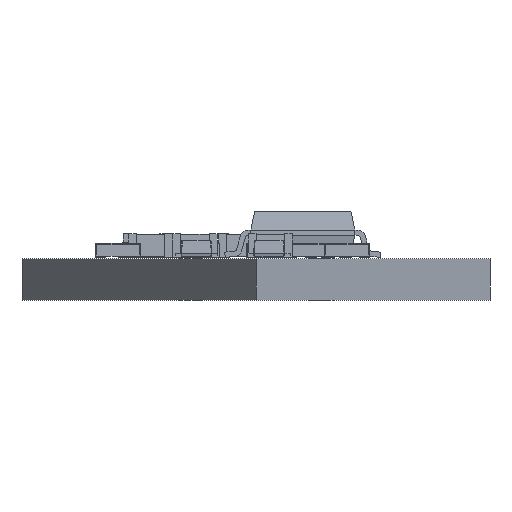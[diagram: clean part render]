
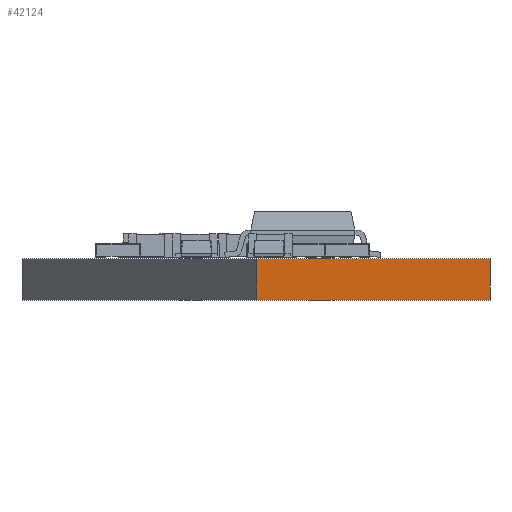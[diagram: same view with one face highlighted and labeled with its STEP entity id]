
A CAD part, front view. The second image highlights one B-rep face of the part: STEP entity #42124.
In plain terms, the highlighted planar face has unit normal (0.822, -0.569, 0).
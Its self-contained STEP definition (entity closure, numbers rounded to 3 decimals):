
#42019 = PLANE('',#42020);
#42020 = AXIS2_PLACEMENT_3D('',#42021,#42022,#42023);
#42021 = CARTESIAN_POINT('',(18.,-70.,0.));
#42022 = DIRECTION('',(1.,0.,-0.));
#42023 = DIRECTION('',(0.,-1.,0.));
#42044 = VERTEX_POINT('',#42045);
#42045 = CARTESIAN_POINT('',(18.,-136.,1.6));
#42059 = PLANE('',#42060);
#42060 = AXIS2_PLACEMENT_3D('',#42061,#42062,#42063);
#42061 = CARTESIAN_POINT('',(18.,-70.,1.6));
#42062 = DIRECTION('',(0.,0.,1.));
#42063 = DIRECTION('',(1.,0.,-0.));
#42071 = EDGE_CURVE('',#42072,#42044,#42074,.T.);
#42072 = VERTEX_POINT('',#42073);
#42073 = CARTESIAN_POINT('',(18.,-136.,0.));
#42074 = SURFACE_CURVE('',#42075,(#42079,#42086),.PCURVE_S1.);
#42075 = LINE('',#42076,#42077);
#42076 = CARTESIAN_POINT('',(18.,-136.,0.));
#42077 = VECTOR('',#42078,1.);
#42078 = DIRECTION('',(0.,0.,1.));
#42079 = PCURVE('',#42019,#42080);
#42080 = DEFINITIONAL_REPRESENTATION('',(#42081),#42085);
#42081 = LINE('',#42082,#42083);
#42082 = CARTESIAN_POINT('',(66.,0.));
#42083 = VECTOR('',#42084,1.);
#42084 = DIRECTION('',(0.,-1.));
#42085 = ( GEOMETRIC_REPRESENTATION_CONTEXT(2) 
PARAMETRIC_REPRESENTATION_CONTEXT() REPRESENTATION_CONTEXT('2D SPACE',''
  ) );
#42086 = PCURVE('',#42087,#42092);
#42087 = PLANE('',#42088);
#42088 = AXIS2_PLACEMENT_3D('',#42089,#42090,#42091);
#42089 = CARTESIAN_POINT('',(18.,-136.,0.));
#42090 = DIRECTION('',(0.822,-0.569,0.));
#42091 = DIRECTION('',(-0.569,-0.822,0.));
#42092 = DEFINITIONAL_REPRESENTATION('',(#42093),#42097);
#42093 = LINE('',#42094,#42095);
#42094 = CARTESIAN_POINT('',(0.,0.));
#42095 = VECTOR('',#42096,1.);
#42096 = DIRECTION('',(0.,-1.));
#42097 = ( GEOMETRIC_REPRESENTATION_CONTEXT(2) 
PARAMETRIC_REPRESENTATION_CONTEXT() REPRESENTATION_CONTEXT('2D SPACE',''
  ) );
#42113 = PLANE('',#42114);
#42114 = AXIS2_PLACEMENT_3D('',#42115,#42116,#42117);
#42115 = CARTESIAN_POINT('',(18.,-70.,0.));
#42116 = DIRECTION('',(0.,0.,1.));
#42117 = DIRECTION('',(1.,0.,-0.));
#42124 = ADVANCED_FACE('',(#42125),#42087,.T.);
#42125 = FACE_BOUND('',#42126,.T.);
#42126 = EDGE_LOOP('',(#42127,#42128,#42151,#42179));
#42127 = ORIENTED_EDGE('',*,*,#42071,.T.);
#42128 = ORIENTED_EDGE('',*,*,#42129,.T.);
#42129 = EDGE_CURVE('',#42044,#42130,#42132,.T.);
#42130 = VERTEX_POINT('',#42131);
#42131 = CARTESIAN_POINT('',(9.,-149.,1.6));
#42132 = SURFACE_CURVE('',#42133,(#42137,#42144),.PCURVE_S1.);
#42133 = LINE('',#42134,#42135);
#42134 = CARTESIAN_POINT('',(18.,-136.,1.6));
#42135 = VECTOR('',#42136,1.);
#42136 = DIRECTION('',(-0.569,-0.822,0.));
#42137 = PCURVE('',#42087,#42138);
#42138 = DEFINITIONAL_REPRESENTATION('',(#42139),#42143);
#42139 = LINE('',#42140,#42141);
#42140 = CARTESIAN_POINT('',(0.,-1.6));
#42141 = VECTOR('',#42142,1.);
#42142 = DIRECTION('',(1.,0.));
#42143 = ( GEOMETRIC_REPRESENTATION_CONTEXT(2) 
PARAMETRIC_REPRESENTATION_CONTEXT() REPRESENTATION_CONTEXT('2D SPACE',''
  ) );
#42144 = PCURVE('',#42059,#42145);
#42145 = DEFINITIONAL_REPRESENTATION('',(#42146),#42150);
#42146 = LINE('',#42147,#42148);
#42147 = CARTESIAN_POINT('',(0.,-66.));
#42148 = VECTOR('',#42149,1.);
#42149 = DIRECTION('',(-0.569,-0.822));
#42150 = ( GEOMETRIC_REPRESENTATION_CONTEXT(2) 
PARAMETRIC_REPRESENTATION_CONTEXT() REPRESENTATION_CONTEXT('2D SPACE',''
  ) );
#42151 = ORIENTED_EDGE('',*,*,#42152,.F.);
#42152 = EDGE_CURVE('',#42153,#42130,#42155,.T.);
#42153 = VERTEX_POINT('',#42154);
#42154 = CARTESIAN_POINT('',(9.,-149.,0.));
#42155 = SURFACE_CURVE('',#42156,(#42160,#42167),.PCURVE_S1.);
#42156 = LINE('',#42157,#42158);
#42157 = CARTESIAN_POINT('',(9.,-149.,0.));
#42158 = VECTOR('',#42159,1.);
#42159 = DIRECTION('',(0.,0.,1.));
#42160 = PCURVE('',#42087,#42161);
#42161 = DEFINITIONAL_REPRESENTATION('',(#42162),#42166);
#42162 = LINE('',#42163,#42164);
#42163 = CARTESIAN_POINT('',(15.811,0.));
#42164 = VECTOR('',#42165,1.);
#42165 = DIRECTION('',(0.,-1.));
#42166 = ( GEOMETRIC_REPRESENTATION_CONTEXT(2) 
PARAMETRIC_REPRESENTATION_CONTEXT() REPRESENTATION_CONTEXT('2D SPACE',''
  ) );
#42167 = PCURVE('',#42168,#42173);
#42168 = PLANE('',#42169);
#42169 = AXIS2_PLACEMENT_3D('',#42170,#42171,#42172);
#42170 = CARTESIAN_POINT('',(9.,-149.,0.));
#42171 = DIRECTION('',(-0.822,-0.569,0.));
#42172 = DIRECTION('',(-0.569,0.822,0.));
#42173 = DEFINITIONAL_REPRESENTATION('',(#42174),#42178);
#42174 = LINE('',#42175,#42176);
#42175 = CARTESIAN_POINT('',(0.,0.));
#42176 = VECTOR('',#42177,1.);
#42177 = DIRECTION('',(0.,-1.));
#42178 = ( GEOMETRIC_REPRESENTATION_CONTEXT(2) 
PARAMETRIC_REPRESENTATION_CONTEXT() REPRESENTATION_CONTEXT('2D SPACE',''
  ) );
#42179 = ORIENTED_EDGE('',*,*,#42180,.F.);
#42180 = EDGE_CURVE('',#42072,#42153,#42181,.T.);
#42181 = SURFACE_CURVE('',#42182,(#42186,#42193),.PCURVE_S1.);
#42182 = LINE('',#42183,#42184);
#42183 = CARTESIAN_POINT('',(18.,-136.,0.));
#42184 = VECTOR('',#42185,1.);
#42185 = DIRECTION('',(-0.569,-0.822,0.));
#42186 = PCURVE('',#42087,#42187);
#42187 = DEFINITIONAL_REPRESENTATION('',(#42188),#42192);
#42188 = LINE('',#42189,#42190);
#42189 = CARTESIAN_POINT('',(0.,0.));
#42190 = VECTOR('',#42191,1.);
#42191 = DIRECTION('',(1.,0.));
#42192 = ( GEOMETRIC_REPRESENTATION_CONTEXT(2) 
PARAMETRIC_REPRESENTATION_CONTEXT() REPRESENTATION_CONTEXT('2D SPACE',''
  ) );
#42193 = PCURVE('',#42113,#42194);
#42194 = DEFINITIONAL_REPRESENTATION('',(#42195),#42199);
#42195 = LINE('',#42196,#42197);
#42196 = CARTESIAN_POINT('',(0.,-66.));
#42197 = VECTOR('',#42198,1.);
#42198 = DIRECTION('',(-0.569,-0.822));
#42199 = ( GEOMETRIC_REPRESENTATION_CONTEXT(2) 
PARAMETRIC_REPRESENTATION_CONTEXT() REPRESENTATION_CONTEXT('2D SPACE',''
  ) );
